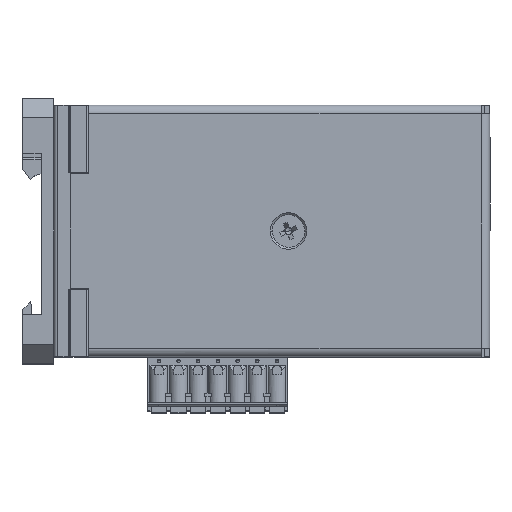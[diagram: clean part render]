
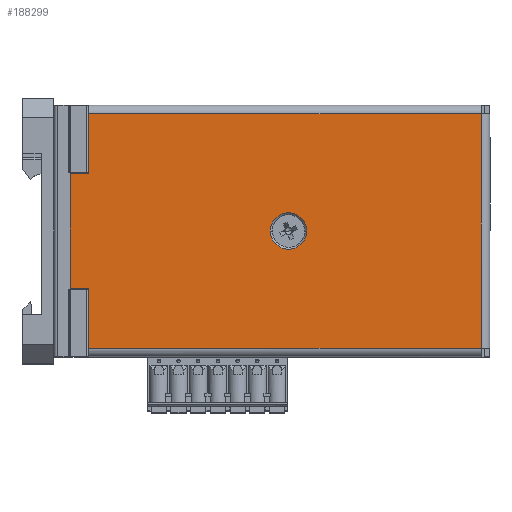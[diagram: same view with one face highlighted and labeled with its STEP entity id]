
A CAD part, top view. The second image highlights one B-rep face of the part: STEP entity #188299.
In plain terms, the highlighted planar face has unit normal (0, 0, 1) as drawn and (0, 1, 0) by its records, which use the part's own axes.
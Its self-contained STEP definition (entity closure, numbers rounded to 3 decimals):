
#942 = DIRECTION ( 'NONE',  ( 1., 0., 0. ) ) ;
#7964 = LINE ( 'NONE', #289377, #240144 ) ;
#13498 = LINE ( 'NONE', #37587, #183926 ) ;
#15870 = FACE_OUTER_BOUND ( 'NONE', #115487, .T. ) ;
#18838 = FACE_BOUND ( 'NONE', #95456, .T. ) ;
#20291 = DIRECTION ( 'NONE',  ( 0., 0., 1. ) ) ;
#22934 = CARTESIAN_POINT ( 'NONE',  ( 17.7, 1.5, -103.55 ) ) ;
#25229 = EDGE_CURVE ( 'NONE', #99696, #73465, #38686, .T. ) ;
#29440 = EDGE_CURVE ( 'NONE', #246560, #86948, #294063, .T. ) ;
#30791 = LINE ( 'NONE', #234122, #231030 ) ;
#30971 = AXIS2_PLACEMENT_3D ( 'NONE', #82739, #106905, #36198 ) ;
#36129 = DIRECTION ( 'NONE',  ( -1., 0., 0. ) ) ;
#36198 = DIRECTION ( 'NONE',  ( 0., 0., 1. ) ) ;
#37193 = CARTESIAN_POINT ( 'NONE',  ( 47.3, 1.5, -108.35 ) ) ;
#37587 = CARTESIAN_POINT ( 'NONE',  ( 65., 1.5, -103.55 ) ) ;
#38686 = LINE ( 'NONE', #37193, #156305 ) ;
#38950 = VERTEX_POINT ( 'NONE', #22934 ) ;
#40359 = CARTESIAN_POINT ( 'NONE',  ( 47.3, 1.5, -108.35 ) ) ;
#45627 = CARTESIAN_POINT ( 'NONE',  ( 2.237, 1.5, -2.237 ) ) ;
#49059 = EDGE_CURVE ( 'NONE', #121753, #73465, #13498, .T. ) ;
#59813 = CARTESIAN_POINT ( 'NONE',  ( 65., 1.5, -103.55 ) ) ;
#61572 = CIRCLE ( 'NONE', #287636, 4.7 ) ;
#63610 = ORIENTED_EDGE ( 'NONE', *, *, #188399, .T. ) ;
#69198 = VECTOR ( 'NONE', #242080, 1000. ) ;
#73465 = VERTEX_POINT ( 'NONE', #171832 ) ;
#82739 = CARTESIAN_POINT ( 'NONE',  ( 32.503, 1.5, -51.97 ) ) ;
#86543 = CARTESIAN_POINT ( 'NONE',  ( 0., 1.5, 0. ) ) ;
#86948 = VERTEX_POINT ( 'NONE', #88251 ) ;
#88251 = CARTESIAN_POINT ( 'NONE',  ( 62.763, 1.5, -2.237 ) ) ;
#94052 = DIRECTION ( 'NONE',  ( 0., 0., 1. ) ) ;
#95456 = EDGE_LOOP ( 'NONE', ( #126368, #296216 ) ) ;
#99696 = VERTEX_POINT ( 'NONE', #40359 ) ;
#101442 = EDGE_CURVE ( 'NONE', #183874, #38950, #30791, .T. ) ;
#104573 = DIRECTION ( 'NONE',  ( 0., 1., 0. ) ) ;
#106905 = DIRECTION ( 'NONE',  ( 0., 1., 0. ) ) ;
#107951 = DIRECTION ( 'NONE',  ( 0., 0., 1. ) ) ;
#112084 = ORIENTED_EDGE ( 'NONE', *, *, #49059, .T. ) ;
#112249 = VECTOR ( 'NONE', #20291, 1000. ) ;
#112801 = EDGE_CURVE ( 'NONE', #38950, #250650, #287104, .T. ) ;
#114832 = DIRECTION ( 'NONE',  ( 1., 0., 0. ) ) ;
#115487 = EDGE_LOOP ( 'NONE', ( #160963, #287560, #112084, #224323, #262712, #184534, #284090, #63610 ) ) ;
#121753 = VERTEX_POINT ( 'NONE', #143968 ) ;
#126368 = ORIENTED_EDGE ( 'NONE', *, *, #159549, .F. ) ;
#131764 = CARTESIAN_POINT ( 'NONE',  ( 2.237, 1.5, -103.55 ) ) ;
#132839 = EDGE_CURVE ( 'NONE', #189545, #274971, #208292, .T. ) ;
#137959 = LINE ( 'NONE', #205822, #158827 ) ;
#138507 = CARTESIAN_POINT ( 'NONE',  ( 32.503, 1.5, -56.67 ) ) ;
#140663 = EDGE_CURVE ( 'NONE', #183874, #99696, #137959, .T. ) ;
#143968 = CARTESIAN_POINT ( 'NONE',  ( 62.763, 1.5, -103.55 ) ) ;
#146755 = CARTESIAN_POINT ( 'NONE',  ( 32.503, 1.5, -51.97 ) ) ;
#150521 = AXIS2_PLACEMENT_3D ( 'NONE', #86543, #225179, #267278 ) ;
#154681 = VECTOR ( 'NONE', #114832, 1000. ) ;
#156305 = VECTOR ( 'NONE', #107951, 1000. ) ;
#158827 = VECTOR ( 'NONE', #942, 1000. ) ;
#159549 = EDGE_CURVE ( 'NONE', #274971, #189545, #61572, .T. ) ;
#160963 = ORIENTED_EDGE ( 'NONE', *, *, #29440, .T. ) ;
#171832 = CARTESIAN_POINT ( 'NONE',  ( 47.3, 1.5, -103.55 ) ) ;
#181252 = CARTESIAN_POINT ( 'NONE',  ( 2.207, 1.5, -2.237 ) ) ;
#183874 = VERTEX_POINT ( 'NONE', #257798 ) ;
#183926 = VECTOR ( 'NONE', #36129, 1000. ) ;
#184534 = ORIENTED_EDGE ( 'NONE', *, *, #101442, .T. ) ;
#188299 = ADVANCED_FACE ( 'NONE', ( #18838, #15870 ), #198189, .T. ) ;
#188399 = EDGE_CURVE ( 'NONE', #250650, #246560, #249150, .T. ) ;
#189545 = VERTEX_POINT ( 'NONE', #138507 ) ;
#194777 = DIRECTION ( 'NONE',  ( 0., 0., -1. ) ) ;
#198189 = PLANE ( 'NONE',  #150521 ) ;
#205822 = CARTESIAN_POINT ( 'NONE',  ( 47.3, 1.5, -108.35 ) ) ;
#208292 = CIRCLE ( 'NONE', #30971, 4.7 ) ;
#213624 = CARTESIAN_POINT ( 'NONE',  ( 2.237, 1.5, -103.55 ) ) ;
#214595 = DIRECTION ( 'NONE',  ( 0., 0., 1. ) ) ;
#224323 = ORIENTED_EDGE ( 'NONE', *, *, #25229, .F. ) ;
#225179 = DIRECTION ( 'NONE',  ( 0., 1., 0. ) ) ;
#231030 = VECTOR ( 'NONE', #94052, 1000. ) ;
#234122 = CARTESIAN_POINT ( 'NONE',  ( 17.7, 1.5, -108.35 ) ) ;
#240144 = VECTOR ( 'NONE', #194777, 1000. ) ;
#242080 = DIRECTION ( 'NONE',  ( -1., 0., 0. ) ) ;
#246560 = VERTEX_POINT ( 'NONE', #45627 ) ;
#249150 = LINE ( 'NONE', #131764, #112249 ) ;
#250650 = VERTEX_POINT ( 'NONE', #213624 ) ;
#257798 = CARTESIAN_POINT ( 'NONE',  ( 17.7, 1.5, -108.35 ) ) ;
#261785 = EDGE_CURVE ( 'NONE', #86948, #121753, #7964, .T. ) ;
#262712 = ORIENTED_EDGE ( 'NONE', *, *, #140663, .F. ) ;
#267278 = DIRECTION ( 'NONE',  ( 0., 0., 1. ) ) ;
#273178 = CARTESIAN_POINT ( 'NONE',  ( 32.503, 1.5, -47.27 ) ) ;
#274971 = VERTEX_POINT ( 'NONE', #273178 ) ;
#284090 = ORIENTED_EDGE ( 'NONE', *, *, #112801, .T. ) ;
#287104 = LINE ( 'NONE', #59813, #69198 ) ;
#287560 = ORIENTED_EDGE ( 'NONE', *, *, #261785, .T. ) ;
#287636 = AXIS2_PLACEMENT_3D ( 'NONE', #146755, #104573, #214595 ) ;
#289377 = CARTESIAN_POINT ( 'NONE',  ( 62.763, 1.5, -2.207 ) ) ;
#294063 = LINE ( 'NONE', #181252, #154681 ) ;
#296216 = ORIENTED_EDGE ( 'NONE', *, *, #132839, .F. ) ;
